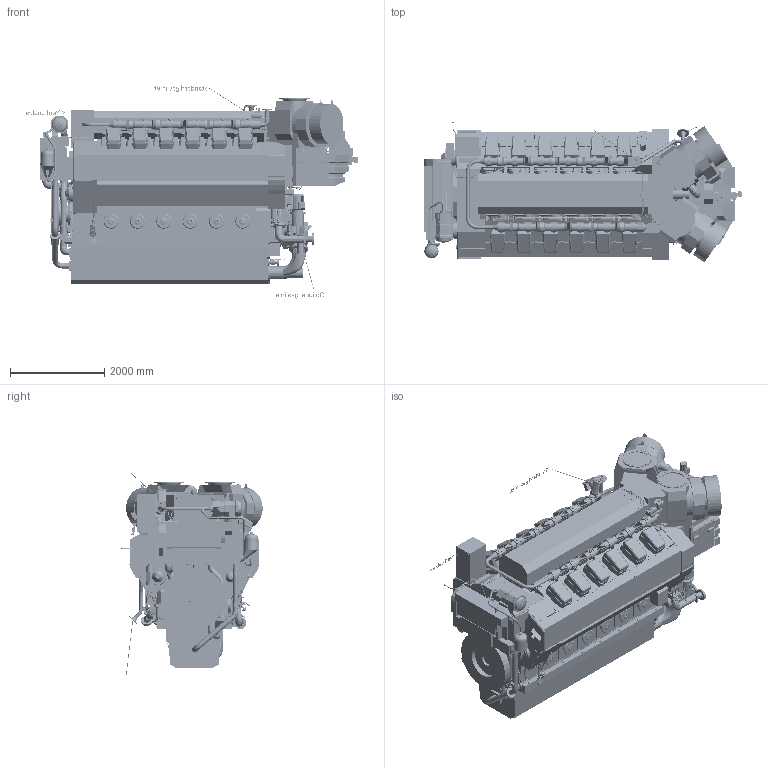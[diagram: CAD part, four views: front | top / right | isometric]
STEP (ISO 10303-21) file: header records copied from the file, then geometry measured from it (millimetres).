
FILE_DESCRIPTION(/* description */ (''),/* implementation_level */ '2;1');
FILE_NAME(/* name */ 'DAAF379571_B.stp',/* time_stamp */ '2021-12-10T13:26:08+02:00',/* author */ (''),/* organization */ (''),/* preprocessor_version */ 'ST-DEVELOPER v16.7',/* originating_system */ 'SIEMENS PLM Software NX 1915',/* authorisation */ '');
FILE_SCHEMA (('AUTOMOTIVE_DESIGN { 1 0 10303 214 3 1 1 1 }'));
Products named in the file (77): PABA324496_-; PABA065852_-; PABA274494_-; PAAF695508_-; PAAF093449_-; PAAF074446_-; PABA053131_-; PABA002081_-; PAAF243367_-; PAAF066761_-; PAAF688045_-; PAAF688053_-; PABA173946_-; PABA156629_-; PABA068010_-; PABA067993_-; PAAF074393_-; PAAF078522_-; PABA001772_-; PABA002426_-; PAAF078708_-; PAAF688051_-; PABA041040_-; PAAF243373_-; PAAF689738_-; PAAF211478_-; PAAF427671_-; PAAF450547_-; PAAF695507_-; PABA033164_-; PAAF066738_-; PAAF093834_-; PAAF078635_-; PAAF077590_-; PAAF078607_-; PAAF078553_-; PAAF077589_-; PAAF688036_-; PAAF220774_-; PAAF221638_-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
Assembly tree (77 placements, depth 2):
  PABA271994_-
    PABA036926_-
    PAAF063634_-
    PAAF238216_-
    PABA034962_-
    PAAF295070_-
    PABA001563_-
    PABA052452_-
    PABA052478_-
    PABA052425_-
    PABA053684_-
    PAAF243684_-
    PAAF074389_-
    PAAF852803_-
    PAAF304653_-
    PAAF087001_-
    PAAF243666_-
    PAAF565855_-
    PAAF078239_-
    PAAF991059_-
    PAAF078077_-
    PAAF087123_-
    PAAF247464_-
    PAAF087117_-
    PAAF087083_-
    PAAF087113_-
    PABA076699_-
    PAAF245056_-
    PAAF243370_-
    PAAF087128_-
    PAAF990034_-
    PAAF078535_-
    PAAF087138_-
    PAAF074410_-  x2
    PAAF087147_-
    PAAF078536_-
    PAAF166694_-
    PAAF221638_-
    PAAF220774_-
    PAAF688036_-
    PAAF077589_-
    PAAF078553_-
    PAAF078607_-
    PAAF077590_-
    PAAF078635_-
    PAAF093834_-
    PAAF066738_-
    PABA033164_-
    PAAF695507_-
    PAAF450547_-
    PAAF427671_-
    PAAF211478_-
    PAAF689738_-
    PAAF243373_-
    PABA041040_-
    PAAF688051_-
    PAAF078708_-
    PABA002426_-
    PABA001772_-
    PAAF078522_-
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Bounding box: 7054.84 x 3000.14 x 4527 mm (x, y, z)
Volume: 27550216557.7 mm3; surface area: 324106541.6 mm2
Topology: 451 solids, 577 shells, 18057 faces, 43591 edges, 27836 vertices
Faces by surface type: plane 9846, cylinder 4435, bspline 2309, torus 724, extrusion 473, cone 254, revolution 9, sphere 7
Full cylindrical faces by diameter (mm): 0.107 x1, 3.3 x12, 6 x16, 8 x38, 8.5 x1, 8.993 x3, 9 x20, 9.685 x1, 9.69 x1, 10 x21, 11 x19, 11.908 x1, 11.995 x1, 12 x108, 12.6 x2, 13.2 x4, 13.5 x5, 13.6 x2, 14 x63, 14.596 x1, 15 x59, 15.5 x4, 15.6 x1, 15.7 x4, 16 x19, 16.376 x1, 16.658 x1, 17 x2, 17.5 x4, 17.997 x1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
Entity records: 636045 total; most frequent: CARTESIAN_POINT 239936, DIRECTION 77534, ORIENTED_EDGE 77524, EDGE_CURVE 38762, AXIS2_PLACEMENT_3D 27543, VERTEX_POINT 26143, EDGE_LOOP 22681, VECTOR 22439
